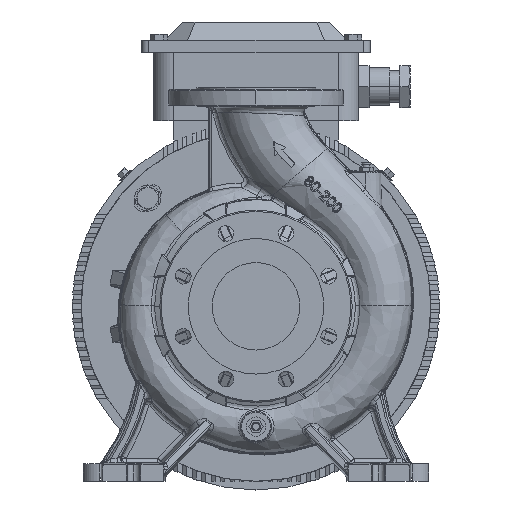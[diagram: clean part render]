
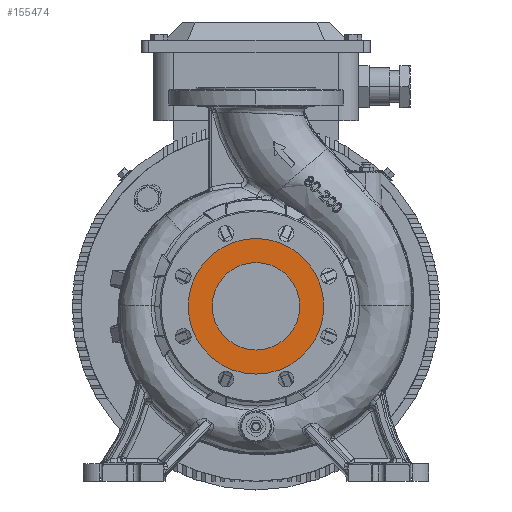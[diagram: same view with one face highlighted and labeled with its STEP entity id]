
A CAD part, front view. The second image highlights one B-rep face of the part: STEP entity #155474.
In plain terms, the highlighted planar face has unit normal (0, -1, 0).
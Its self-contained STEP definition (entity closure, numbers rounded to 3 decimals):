
#4830 = CIRCLE ( 'NONE', #103822, 50. ) ;
#4919 = ORIENTED_EDGE ( 'NONE', *, *, #102271, .F. ) ;
#5900 = VERTEX_POINT ( 'NONE', #133640 ) ;
#7829 = ORIENTED_EDGE ( 'NONE', *, *, #164856, .T. ) ;
#21415 = DIRECTION ( 'NONE',  ( 1., 0., 0. ) ) ;
#25930 = DIRECTION ( 'NONE',  ( 0., 1., 0. ) ) ;
#32525 = CARTESIAN_POINT ( 'NONE',  ( 50., -270., 0. ) ) ;
#33614 = CARTESIAN_POINT ( 'NONE',  ( 77.5, -270., 0. ) ) ;
#34518 = AXIS2_PLACEMENT_3D ( 'NONE', #111143, #70363, #45547 ) ;
#42178 = CIRCLE ( 'NONE', #87792, 77.5 ) ;
#45547 = DIRECTION ( 'NONE',  ( 1., 0., 0. ) ) ;
#47908 = DIRECTION ( 'NONE',  ( 0., 0., -1. ) ) ;
#50316 = VERTEX_POINT ( 'NONE', #33614 ) ;
#50762 = VERTEX_POINT ( 'NONE', #32525 ) ;
#62059 = FACE_BOUND ( 'NONE', #162972, .T. ) ;
#64221 = DIRECTION ( 'NONE',  ( 1., 0., 0. ) ) ;
#70363 = DIRECTION ( 'NONE',  ( 0., 1., 0. ) ) ;
#73589 = CARTESIAN_POINT ( 'NONE',  ( 0., -270., 0. ) ) ;
#75896 = EDGE_LOOP ( 'NONE', ( #140564, #4919 ) ) ;
#76244 = CARTESIAN_POINT ( 'NONE',  ( 0., -270., 0. ) ) ;
#84321 = AXIS2_PLACEMENT_3D ( 'NONE', #156415, #133342, #64221 ) ;
#85729 = AXIS2_PLACEMENT_3D ( 'NONE', #73589, #101948, #47908 ) ;
#87792 = AXIS2_PLACEMENT_3D ( 'NONE', #133994, #25930, #169655 ) ;
#101948 = DIRECTION ( 'NONE',  ( 0., -1., 0. ) ) ;
#102271 = EDGE_CURVE ( 'NONE', #5900, #50316, #163504, .T. ) ;
#103822 = AXIS2_PLACEMENT_3D ( 'NONE', #76244, #142747, #21415 ) ;
#111143 = CARTESIAN_POINT ( 'NONE',  ( 0., -270., 0. ) ) ;
#117942 = EDGE_CURVE ( 'NONE', #50762, #132939, #133549, .T. ) ;
#127484 = EDGE_CURVE ( 'NONE', #50316, #5900, #42178, .T. ) ;
#132939 = VERTEX_POINT ( 'NONE', #156356 ) ;
#133342 = DIRECTION ( 'NONE',  ( 0., 1., 0. ) ) ;
#133549 = CIRCLE ( 'NONE', #34518, 50. ) ;
#133640 = CARTESIAN_POINT ( 'NONE',  ( -77.5, -270., 0. ) ) ;
#133994 = CARTESIAN_POINT ( 'NONE',  ( 0., -270., 0. ) ) ;
#140564 = ORIENTED_EDGE ( 'NONE', *, *, #127484, .F. ) ;
#142747 = DIRECTION ( 'NONE',  ( 0., 1., 0. ) ) ;
#155109 = FACE_OUTER_BOUND ( 'NONE', #75896, .T. ) ;
#155474 = ADVANCED_FACE ( 'NONE', ( #155109, #62059 ), #170123, .T. ) ;
#156356 = CARTESIAN_POINT ( 'NONE',  ( -50., -270., 0. ) ) ;
#156415 = CARTESIAN_POINT ( 'NONE',  ( 0., -270., 0. ) ) ;
#158972 = ORIENTED_EDGE ( 'NONE', *, *, #117942, .T. ) ;
#162972 = EDGE_LOOP ( 'NONE', ( #7829, #158972 ) ) ;
#163504 = CIRCLE ( 'NONE', #84321, 77.5 ) ;
#164856 = EDGE_CURVE ( 'NONE', #132939, #50762, #4830, .T. ) ;
#169655 = DIRECTION ( 'NONE',  ( 1., 0., 0. ) ) ;
#170123 = PLANE ( 'NONE',  #85729 ) ;
